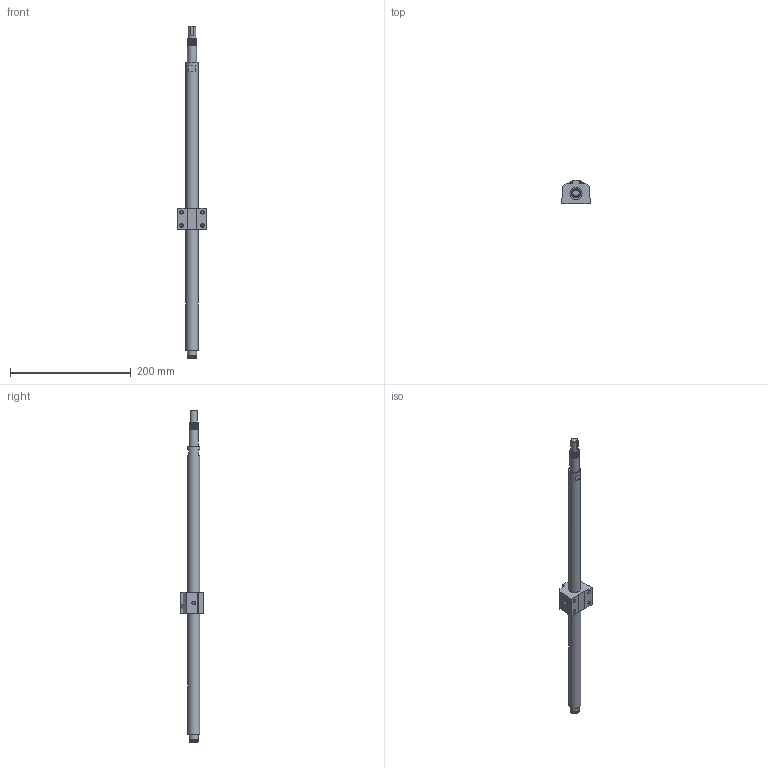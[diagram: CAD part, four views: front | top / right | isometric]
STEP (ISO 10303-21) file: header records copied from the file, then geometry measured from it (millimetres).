
FILE_DESCRIPTION(/* description */ (''),/* implementation_level */ '2;1');
FILE_NAME(/* name */ 'BSG497_asm1.stp',/* time_stamp */ '2017-01-17T15:28:25+08:00',/* author */ (''),/* organization */ (''),/* preprocessor_version */ 'ST-DEVELOPER v15',/* originating_system */ 'SIEMENS PLM Software NX 8.5',/* authorisation */ '');
FILE_SCHEMA (('AUTOMOTIVE_DESIGN { 1 0 10303 214 3 1 1 1 }'));
Length unit declared in the file: millimetre
Products named in the file (3): 01; BSG188; BSG497_asm1
Assembly tree (2 placements, depth 2):
  BSG497_asm1
    BSG188
    01
Bounding box: 48 x 39.5 x 550 mm (x, y, z)
Volume: 43021.6 mm3; surface area: 45918.7 mm2
Topology: 1 solids, 2 shells, 93 faces, 222 edges, 148 vertices
Faces by surface type: plane 47, cylinder 34, cone 6, torus 4, bspline 2
Full cylindrical faces by diameter (mm): 3.5 x2, 5 x5, 6 x7, 12 x1, 14.3 x1, 15 x14, 20 x2
Entity records: 4945 total; most frequent: CARTESIAN_POINT 3189, DIRECTION 344, ORIENTED_EDGE 290, EDGE_CURVE 145, AXIS2_PLACEMENT_3D 135, EDGE_LOOP 134, VERTEX_POINT 115, FACE_BOUND 106
